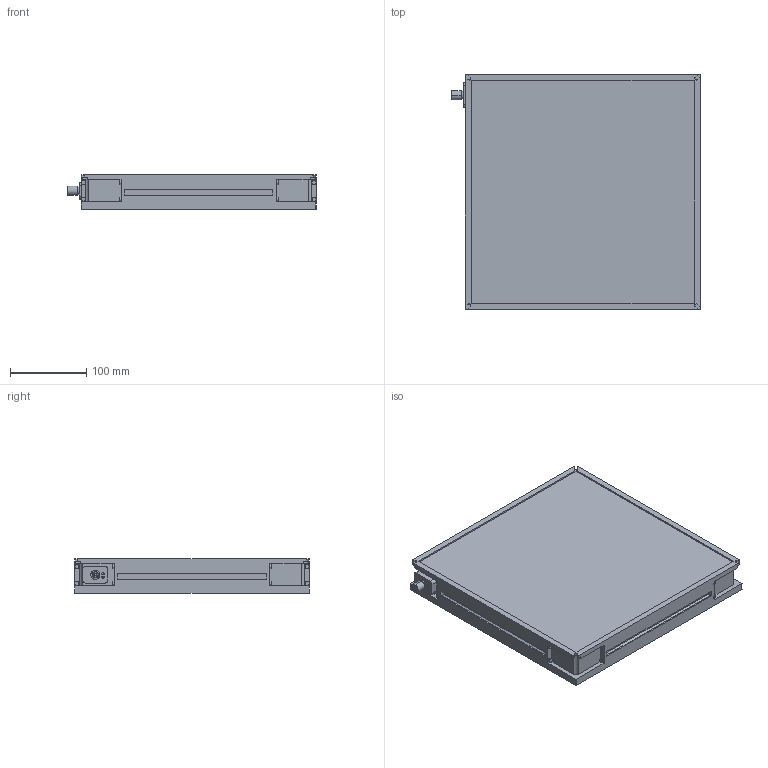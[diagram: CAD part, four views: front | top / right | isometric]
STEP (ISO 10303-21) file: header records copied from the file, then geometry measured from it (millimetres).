
FILE_DESCRIPTION (( 'STEP AP214' ), '1' );
FILE_NAME ('MBACK-xxxx-xxx-M1_CLIENT300x300.STEP', '2022-03-31T16:02:22', ( '' ), ( '' ), 'SwSTEP 2.0', 'SolidWorks 2020', '' );
FILE_SCHEMA (( 'AUTOMOTIVE_DESIGN' ));
Length unit declared in the file: millimetre
Products named in the file (1): MBACK-xxxx-xxx-M1_CLIENT300x300
Bounding box: 325.9 x 308 x 45.5 mm (x, y, z)
Volume: 3892874 mm3; surface area: 271295.7 mm2
Topology: 1 solids, 1 shells, 439 faces, 1138 edges, 756 vertices
Faces by surface type: plane 248, cylinder 103, bspline 80, cone 8
Entity records: 17156 total; most frequent: CARTESIAN_POINT 6686, ORIENTED_EDGE 2276, DIRECTION 1920, EDGE_CURVE 1138, LINE 756, VERTEX_POINT 756, VECTOR 756, AXIS2_PLACEMENT_3D 582
